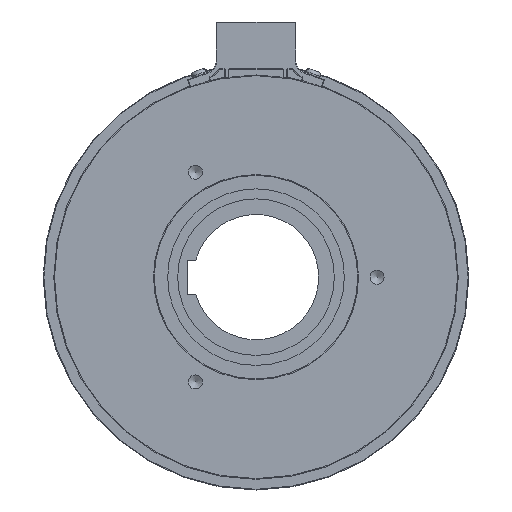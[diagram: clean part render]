
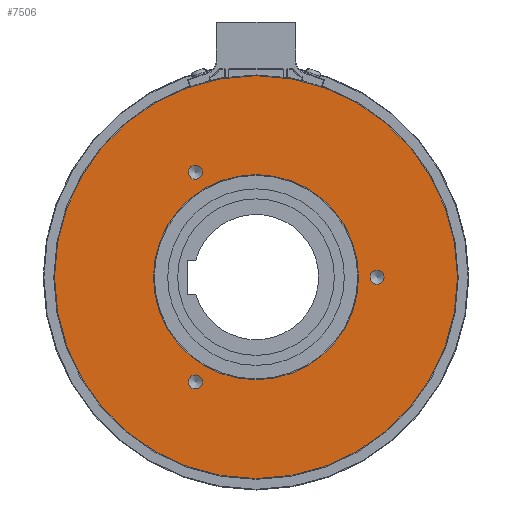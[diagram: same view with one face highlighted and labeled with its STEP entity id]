
A CAD part, left-side view. The second image highlights one B-rep face of the part: STEP entity #7506.
In plain terms, the highlighted planar face has unit normal (-1, 0, 0).
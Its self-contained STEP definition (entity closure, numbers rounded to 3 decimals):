
#216=FACE_BOUND('',#1208,.T.);
#217=FACE_BOUND('',#1209,.T.);
#218=FACE_BOUND('',#1210,.T.);
#219=FACE_BOUND('',#1211,.T.);
#319=PLANE('',#8549);
#712=FACE_OUTER_BOUND('',#1207,.T.);
#1207=EDGE_LOOP('',(#6489,#6490));
#1208=EDGE_LOOP('',(#6491,#6492));
#1209=EDGE_LOOP('',(#6493,#6494));
#1210=EDGE_LOOP('',(#6495,#6496));
#1211=EDGE_LOOP('',(#6497,#6498));
#2413=CIRCLE('',#8155,70.75);
#2414=CIRCLE('',#8156,70.75);
#2575=CIRCLE('',#8474,2.459);
#2576=CIRCLE('',#8475,2.459);
#2579=CIRCLE('',#8480,2.459);
#2580=CIRCLE('',#8481,2.459);
#2583=CIRCLE('',#8486,2.459);
#2584=CIRCLE('',#8487,2.459);
#2626=CIRCLE('',#8550,36.);
#2627=CIRCLE('',#8551,36.);
#3068=VERTEX_POINT('',#12380);
#3069=VERTEX_POINT('',#12381);
#3277=VERTEX_POINT('',#13401);
#3278=VERTEX_POINT('',#13402);
#3282=VERTEX_POINT('',#13414);
#3283=VERTEX_POINT('',#13415);
#3287=VERTEX_POINT('',#13427);
#3288=VERTEX_POINT('',#13428);
#3332=VERTEX_POINT('',#13570);
#3333=VERTEX_POINT('',#13571);
#3952=EDGE_CURVE('',#3068,#3069,#2413,.T.);
#3953=EDGE_CURVE('',#3069,#3068,#2414,.T.);
#4317=EDGE_CURVE('',#3277,#3278,#2575,.T.);
#4318=EDGE_CURVE('',#3278,#3277,#2576,.T.);
#4323=EDGE_CURVE('',#3282,#3283,#2579,.T.);
#4324=EDGE_CURVE('',#3283,#3282,#2580,.T.);
#4329=EDGE_CURVE('',#3287,#3288,#2583,.T.);
#4330=EDGE_CURVE('',#3288,#3287,#2584,.T.);
#4388=EDGE_CURVE('',#3332,#3333,#2626,.T.);
#4389=EDGE_CURVE('',#3333,#3332,#2627,.T.);
#6489=ORIENTED_EDGE('',*,*,#3952,.T.);
#6490=ORIENTED_EDGE('',*,*,#3953,.T.);
#6491=ORIENTED_EDGE('',*,*,#4317,.T.);
#6492=ORIENTED_EDGE('',*,*,#4318,.T.);
#6493=ORIENTED_EDGE('',*,*,#4323,.T.);
#6494=ORIENTED_EDGE('',*,*,#4324,.T.);
#6495=ORIENTED_EDGE('',*,*,#4329,.T.);
#6496=ORIENTED_EDGE('',*,*,#4330,.T.);
#6497=ORIENTED_EDGE('',*,*,#4388,.F.);
#6498=ORIENTED_EDGE('',*,*,#4389,.F.);
#7506=ADVANCED_FACE('',(#712,#216,#217,#218,#219),#319,.T.);
#8155=AXIS2_PLACEMENT_3D('',#12382,#9999,#10000);
#8156=AXIS2_PLACEMENT_3D('',#12383,#10001,#10002);
#8474=AXIS2_PLACEMENT_3D('',#13403,#10817,#10818);
#8475=AXIS2_PLACEMENT_3D('',#13404,#10819,#10820);
#8480=AXIS2_PLACEMENT_3D('',#13416,#10831,#10832);
#8481=AXIS2_PLACEMENT_3D('',#13417,#10833,#10834);
#8486=AXIS2_PLACEMENT_3D('',#13429,#10845,#10846);
#8487=AXIS2_PLACEMENT_3D('',#13430,#10847,#10848);
#8549=AXIS2_PLACEMENT_3D('',#13569,#10985,#10986);
#8550=AXIS2_PLACEMENT_3D('',#13572,#10987,#10988);
#8551=AXIS2_PLACEMENT_3D('',#13573,#10989,#10990);
#9999=DIRECTION('center_axis',(-1.,0.,0.));
#10000=DIRECTION('ref_axis',(0.,1.,0.));
#10001=DIRECTION('center_axis',(-1.,0.,0.));
#10002=DIRECTION('ref_axis',(0.,1.,0.));
#10817=DIRECTION('center_axis',(1.,0.,0.));
#10818=DIRECTION('ref_axis',(0.,0.,
1.));
#10819=DIRECTION('center_axis',(1.,0.,0.));
#10820=DIRECTION('ref_axis',(0.,0.,
1.));
#10831=DIRECTION('center_axis',(1.,0.,0.));
#10832=DIRECTION('ref_axis',(0.,0.,
1.));
#10833=DIRECTION('center_axis',(1.,0.,0.));
#10834=DIRECTION('ref_axis',(0.,0.,
1.));
#10845=DIRECTION('center_axis',(1.,0.,0.));
#10846=DIRECTION('ref_axis',(0.,0.,
1.));
#10847=DIRECTION('center_axis',(1.,0.,0.));
#10848=DIRECTION('ref_axis',(0.,0.,
1.));
#10985=DIRECTION('center_axis',(-1.,0.,0.));
#10986=DIRECTION('ref_axis',(0.,0.,
1.));
#10987=DIRECTION('center_axis',(-1.,0.,0.));
#10988=DIRECTION('ref_axis',(0.,1.,0.));
#10989=DIRECTION('center_axis',(-1.,0.,0.));
#10990=DIRECTION('ref_axis',(0.,1.,0.));
#12380=CARTESIAN_POINT('',(-19.5,70.75,0.));
#12381=CARTESIAN_POINT('',(-19.5,-70.75,0.));
#12382=CARTESIAN_POINT('Origin',(-19.5,0.,0.));
#12383=CARTESIAN_POINT('Origin',(-19.5,0.,0.));
#13401=CARTESIAN_POINT('',(-19.5,21.25,39.265));
#13402=CARTESIAN_POINT('',(-19.5,21.25,34.348));
#13403=CARTESIAN_POINT('Origin',(-19.5,21.25,36.806));
#13404=CARTESIAN_POINT('Origin',(-19.5,21.25,36.806));
#13414=CARTESIAN_POINT('',(-19.5,-42.5,2.459));
#13415=CARTESIAN_POINT('',(-19.5,-42.5,-2.458));
#13416=CARTESIAN_POINT('Origin',(-19.5,-42.5,0.));
#13417=CARTESIAN_POINT('Origin',(-19.5,-42.5,0.));
#13427=CARTESIAN_POINT('',(-19.5,21.25,-34.348));
#13428=CARTESIAN_POINT('',(-19.5,21.25,-39.265));
#13429=CARTESIAN_POINT('Origin',(-19.5,21.25,-36.806));
#13430=CARTESIAN_POINT('Origin',(-19.5,21.25,-36.806));
#13569=CARTESIAN_POINT('Origin',(-19.5,53.375,0.));
#13570=CARTESIAN_POINT('',(-19.5,36.,0.));
#13571=CARTESIAN_POINT('',(-19.5,-36.,0.));
#13572=CARTESIAN_POINT('Origin',(-19.5,0.,0.));
#13573=CARTESIAN_POINT('Origin',(-19.5,0.,0.));
